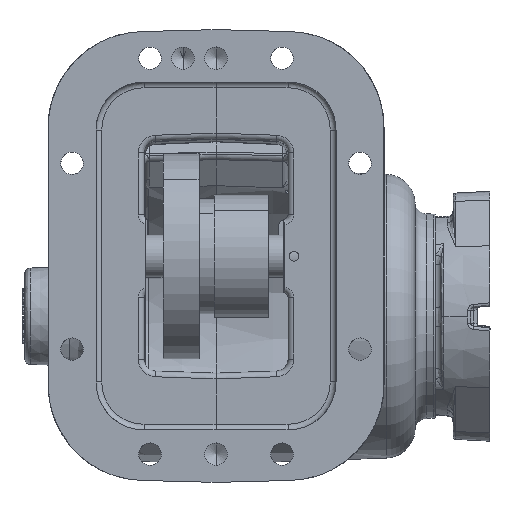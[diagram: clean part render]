
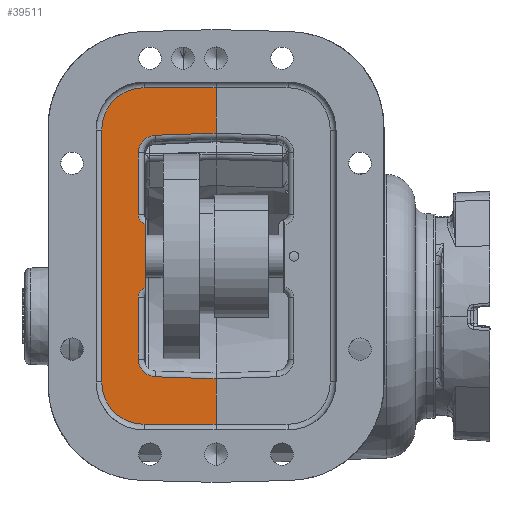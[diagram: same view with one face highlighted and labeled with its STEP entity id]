
A CAD part, front view. The second image highlights one B-rep face of the part: STEP entity #39511.
In plain terms, the highlighted planar face has unit normal (0, -1, 0).
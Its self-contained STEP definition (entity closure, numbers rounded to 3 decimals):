
#1481 = EDGE_LOOP ( 'NONE', ( #66207, #66209, #66211, #66213, #66215, #66217, #66219, #66221, #66222, #66224, #66226, #66228, #66230, #66232, #66234, #66236 ) ) ;
#2966 = VERTEX_POINT ( 'NONE', #6725 ) ;
#2981 = VERTEX_POINT ( 'NONE', #6756 ) ;
#6725 = CARTESIAN_POINT ( 'NONE',  ( -47.728, -133.047, 5.386 ) ) ;
#6756 = CARTESIAN_POINT ( 'NONE',  ( -47.728, -133.047, 38.408 ) ) ;
#13092 = CIRCLE ( 'NONE', #89314, 6.096 ) ;
#13120 = CIRCLE ( 'NONE', #89345, 6.096 ) ;
#13135 = LINE ( 'NONE', #101476, #13150 ) ;
#13137 = LINE ( 'NONE', #101489, #13143 ) ;
#13141 = LINE ( 'NONE', #101494, #13146 ) ;
#13143 = VECTOR ( 'NONE', #101492, 1000. ) ;
#13146 = VECTOR ( 'NONE', #101498, 1000. ) ;
#13150 = VECTOR ( 'NONE', #101500, 1000. ) ;
#16190 = EDGE_CURVE ( 'NONE', #33746, #33743, #81210, .T. ) ;
#16204 = EDGE_CURVE ( 'NONE', #33743, #33742, #81218, .T. ) ;
#16216 = EDGE_CURVE ( 'NONE', #33742, #33740, #81226, .T. ) ;
#16233 = EDGE_CURVE ( 'NONE', #33708, #33719, #81239, .T. ) ;
#16246 = EDGE_CURVE ( 'NONE', #33719, #33732, #81246, .T. ) ;
#16256 = EDGE_CURVE ( 'NONE', #33732, #33698, #81250, .T. ) ;
#16394 = EDGE_CURVE ( 'NONE', #33664, #33621, #81290, .T. ) ;
#16406 = EDGE_CURVE ( 'NONE', #33621, #33618, #81298, .T. ) ;
#16410 = EDGE_CURVE ( 'NONE', #33610, #33664, #81297, .T. ) ;
#16424 = EDGE_CURVE ( 'NONE', #33603, #33610, #81307, .T. ) ;
#16434 = EDGE_CURVE ( 'NONE', #33591, #33603, #81315, .T. ) ;
#17586 = EDGE_CURVE ( 'NONE', #33740, #2981, #13092, .T. ) ;
#17601 = EDGE_CURVE ( 'NONE', #2966, #33708, #13120, .T. ) ;
#17615 = EDGE_CURVE ( 'NONE', #2981, #2966, #13137, .T. ) ;
#17616 = EDGE_CURVE ( 'NONE', #33746, #33618, #13141, .T. ) ;
#17617 = EDGE_CURVE ( 'NONE', #33591, #33698, #13135, .T. ) ;
#33591 = VERTEX_POINT ( 'NONE', #102196 ) ;
#33603 = VERTEX_POINT ( 'NONE', #102204 ) ;
#33610 = VERTEX_POINT ( 'NONE', #102208 ) ;
#33618 = VERTEX_POINT ( 'NONE', #102214 ) ;
#33621 = VERTEX_POINT ( 'NONE', #102216 ) ;
#33664 = VERTEX_POINT ( 'NONE', #102254 ) ;
#33698 = VERTEX_POINT ( 'NONE', #102284 ) ;
#33708 = VERTEX_POINT ( 'NONE', #102294 ) ;
#33719 = VERTEX_POINT ( 'NONE', #102306 ) ;
#33732 = VERTEX_POINT ( 'NONE', #102318 ) ;
#33740 = VERTEX_POINT ( 'NONE', #102326 ) ;
#33742 = VERTEX_POINT ( 'NONE', #102328 ) ;
#33743 = VERTEX_POINT ( 'NONE', #102330 ) ;
#33746 = VERTEX_POINT ( 'NONE', #102332 ) ;
#39511 = ADVANCED_FACE ( 'NONE', ( #110947 ), #104100, .F. ) ;
#42445 = CARTESIAN_POINT ( 'NONE',  ( -48.49, -133.047, 88.572 ) ) ;
#42446 = DIRECTION ( 'NONE',  ( 0., 1., 0. ) ) ;
#42447 = DIRECTION ( 'NONE',  ( 0., 0., -1. ) ) ;
#42448 = DIRECTION ( 'NONE',  ( 0., 0., 1. ) ) ;
#42460 = CARTESIAN_POINT ( 'NONE',  ( -10.39, -133.047, 110.924 ) ) ;
#42461 = DIRECTION ( 'NONE',  ( 1., 0., 0. ) ) ;
#42463 = CARTESIAN_POINT ( 'NONE',  ( -70.842, -133.047, 88.572 ) ) ;
#42478 = CARTESIAN_POINT ( 'NONE',  ( -48.49, -133.047, -44.778 ) ) ;
#42479 = DIRECTION ( 'NONE',  ( 0., 1., 0. ) ) ;
#42480 = DIRECTION ( 'NONE',  ( 0., 0., -1. ) ) ;
#42491 = DIRECTION ( 'NONE',  ( -1., 0., 0. ) ) ;
#42495 = CARTESIAN_POINT ( 'NONE',  ( -48.49, -133.047, -67.13 ) ) ;
#51379 = AXIS2_PLACEMENT_3D ( 'NONE', #104095, #104105, #104107 ) ;
#66207 = ORIENTED_EDGE ( 'NONE', *, *, #17615, .F. ) ;
#66209 = ORIENTED_EDGE ( 'NONE', *, *, #17586, .F. ) ;
#66211 = ORIENTED_EDGE ( 'NONE', *, *, #16216, .F. ) ;
#66213 = ORIENTED_EDGE ( 'NONE', *, *, #16204, .F. ) ;
#66215 = ORIENTED_EDGE ( 'NONE', *, *, #16190, .F. ) ;
#66217 = ORIENTED_EDGE ( 'NONE', *, *, #17616, .T. ) ;
#66219 = ORIENTED_EDGE ( 'NONE', *, *, #16406, .F. ) ;
#66221 = ORIENTED_EDGE ( 'NONE', *, *, #16394, .F. ) ;
#66222 = ORIENTED_EDGE ( 'NONE', *, *, #16410, .F. ) ;
#66224 = ORIENTED_EDGE ( 'NONE', *, *, #16424, .F. ) ;
#66226 = ORIENTED_EDGE ( 'NONE', *, *, #16434, .F. ) ;
#66228 = ORIENTED_EDGE ( 'NONE', *, *, #17617, .T. ) ;
#66230 = ORIENTED_EDGE ( 'NONE', *, *, #16256, .F. ) ;
#66232 = ORIENTED_EDGE ( 'NONE', *, *, #16246, .F. ) ;
#66234 = ORIENTED_EDGE ( 'NONE', *, *, #16233, .F. ) ;
#66236 = ORIENTED_EDGE ( 'NONE', *, *, #17601, .F. ) ;
#81210 = LINE ( 'NONE', #98711, #81213 ) ;
#81213 = VECTOR ( 'NONE', #98716, 1000. ) ;
#81218 = CIRCLE ( 'NONE', #87239, 9.398 ) ;
#81226 = LINE ( 'NONE', #98846, #81229 ) ;
#81229 = VECTOR ( 'NONE', #98851, 1000. ) ;
#81239 = LINE ( 'NONE', #98915, #81241 ) ;
#81241 = VECTOR ( 'NONE', #98900, 1000. ) ;
#81246 = CIRCLE ( 'NONE', #87283, 9.398 ) ;
#81250 = LINE ( 'NONE', #99050, #81253 ) ;
#81253 = VECTOR ( 'NONE', #99054, 1000. ) ;
#81290 = CIRCLE ( 'NONE', #87399, 22.352 ) ;
#81297 = LINE ( 'NONE', #42463, #81304 ) ;
#81298 = LINE ( 'NONE', #42460, #81301 ) ;
#81301 = VECTOR ( 'NONE', #42461, 1000. ) ;
#81304 = VECTOR ( 'NONE', #42448, 1000. ) ;
#81307 = CIRCLE ( 'NONE', #87425, 22.352 ) ;
#81315 = LINE ( 'NONE', #42495, #81320 ) ;
#81320 = VECTOR ( 'NONE', #42491, 1000. ) ;
#87239 = AXIS2_PLACEMENT_3D ( 'NONE', #98792, #98795, #98798 ) ;
#87283 = AXIS2_PLACEMENT_3D ( 'NONE', #99013, #99016, #99019 ) ;
#87399 = AXIS2_PLACEMENT_3D ( 'NONE', #42445, #42446, #42447 ) ;
#87425 = AXIS2_PLACEMENT_3D ( 'NONE', #42478, #42479, #42480 ) ;
#89314 = AXIS2_PLACEMENT_3D ( 'NONE', #101160, #101162, #101164 ) ;
#89345 = AXIS2_PLACEMENT_3D ( 'NONE', #101331, #101333, #101335 ) ;
#98711 = CARTESIAN_POINT ( 'NONE',  ( -42.468, -133.047, 85.803 ) ) ;
#98716 = DIRECTION ( 'NONE',  ( -0.999, 0., -0.035 ) ) ;
#98792 = CARTESIAN_POINT ( 'NONE',  ( -42.14, -133.047, 76.41 ) ) ;
#98795 = DIRECTION ( 'NONE',  ( 0., -1., 0. ) ) ;
#98798 = DIRECTION ( 'NONE',  ( 0., 0., -1. ) ) ;
#98846 = CARTESIAN_POINT ( 'NONE',  ( -51.538, -133.047, 44.059 ) ) ;
#98851 = DIRECTION ( 'NONE',  ( 0., 0., -1. ) ) ;
#98900 = DIRECTION ( 'NONE',  ( 0., 0., -1. ) ) ;
#98915 = CARTESIAN_POINT ( 'NONE',  ( -51.538, -133.047, -32.617 ) ) ;
#99013 = CARTESIAN_POINT ( 'NONE',  ( -42.14, -133.047, -32.617 ) ) ;
#99016 = DIRECTION ( 'NONE',  ( 0., -1., 0. ) ) ;
#99019 = DIRECTION ( 'NONE',  ( 0., 0., -1. ) ) ;
#99050 = CARTESIAN_POINT ( 'NONE',  ( -10.497, -133.047, -43.125 ) ) ;
#99054 = DIRECTION ( 'NONE',  ( 0.999, 0., -0.035 ) ) ;
#101160 = CARTESIAN_POINT ( 'NONE',  ( -45.442, -133.047, 44.059 ) ) ;
#101162 = DIRECTION ( 'NONE',  ( 0., -1., 0. ) ) ;
#101164 = DIRECTION ( 'NONE',  ( 0., 0., -1. ) ) ;
#101331 = CARTESIAN_POINT ( 'NONE',  ( -45.442, -133.047, -0.265 ) ) ;
#101333 = DIRECTION ( 'NONE',  ( 0., -1., 0. ) ) ;
#101335 = DIRECTION ( 'NONE',  ( 0., 0., -1. ) ) ;
#101476 = CARTESIAN_POINT ( 'NONE',  ( -10.39, -133.047, -95.578 ) ) ;
#101489 = CARTESIAN_POINT ( 'NONE',  ( -47.728, -133.047, -95.578 ) ) ;
#101492 = DIRECTION ( 'NONE',  ( 0., 0., -1. ) ) ;
#101494 = CARTESIAN_POINT ( 'NONE',  ( -10.39, -133.047, -95.578 ) ) ;
#101498 = DIRECTION ( 'NONE',  ( 0., 0., 1. ) ) ;
#101500 = DIRECTION ( 'NONE',  ( 0., 0., 1. ) ) ;
#102196 = CARTESIAN_POINT ( 'NONE',  ( -10.39, -133.047, -67.13 ) ) ;
#102204 = CARTESIAN_POINT ( 'NONE',  ( -48.49, -133.047, -67.13 ) ) ;
#102208 = CARTESIAN_POINT ( 'NONE',  ( -70.842, -133.047, -44.778 ) ) ;
#102214 = CARTESIAN_POINT ( 'NONE',  ( -10.39, -133.047, 110.924 ) ) ;
#102216 = CARTESIAN_POINT ( 'NONE',  ( -48.49, -133.047, 110.924 ) ) ;
#102254 = CARTESIAN_POINT ( 'NONE',  ( -70.842, -133.047, 88.572 ) ) ;
#102284 = CARTESIAN_POINT ( 'NONE',  ( -10.39, -133.047, -43.129 ) ) ;
#102294 = CARTESIAN_POINT ( 'NONE',  ( -51.538, -133.047, -0.265 ) ) ;
#102306 = CARTESIAN_POINT ( 'NONE',  ( -51.538, -133.047, -32.617 ) ) ;
#102318 = CARTESIAN_POINT ( 'NONE',  ( -42.468, -133.047, -42.009 ) ) ;
#102326 = CARTESIAN_POINT ( 'NONE',  ( -51.538, -133.047, 44.059 ) ) ;
#102328 = CARTESIAN_POINT ( 'NONE',  ( -51.538, -133.047, 76.41 ) ) ;
#102330 = CARTESIAN_POINT ( 'NONE',  ( -42.468, -133.047, 85.803 ) ) ;
#102332 = CARTESIAN_POINT ( 'NONE',  ( -10.39, -133.047, 86.923 ) ) ;
#104095 = CARTESIAN_POINT ( 'NONE',  ( -99.29, -133.047, -95.578 ) ) ;
#104100 = PLANE ( 'NONE',  #51379 ) ;
#104105 = DIRECTION ( 'NONE',  ( 0., 1., 0. ) ) ;
#104107 = DIRECTION ( 'NONE',  ( 0., 0., -1. ) ) ;
#110947 = FACE_OUTER_BOUND ( 'NONE', #1481, .T. ) ;
